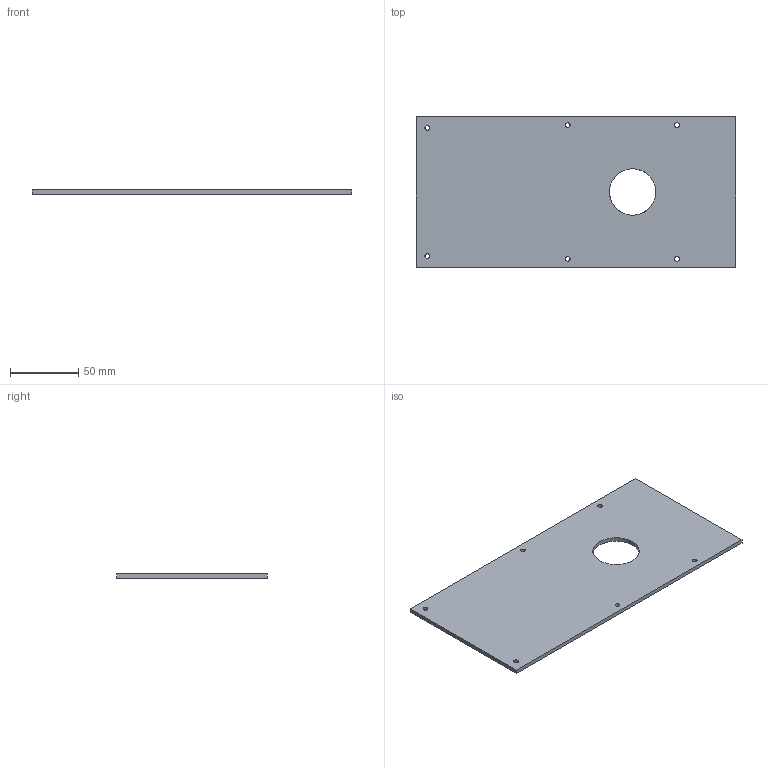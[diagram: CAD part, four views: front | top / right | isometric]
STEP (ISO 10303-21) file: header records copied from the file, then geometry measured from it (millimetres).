
FILE_DESCRIPTION(('Open CASCADE Model'),'2;1');
FILE_NAME('Open CASCADE Shape Model','2026-07-25T17:37:03',('Author'),( 'Open CASCADE'),'Open CASCADE STEP processor 7.9','build123d', 'Unknown');
FILE_SCHEMA(('AUTOMOTIVE_DESIGN { 1 0 10303 214 1 1 1 1 }'));
Length unit declared in the file: millimetre
Products named in the file (1): COMPOUND
Bounding box: 234 x 110 x 3 mm (x, y, z)
Volume: 74313.7 mm3; surface area: 52247.4 mm2
Topology: 1 solids, 1 shells, 483 faces, 1329 edges, 886 vertices
Faces by surface type: extrusion 304, plane 172, cylinder 7
Full cylindrical faces by diameter (mm): 3.4 x6, 34 x1
Entity records: 38217 total; most frequent: CARTESIAN_POINT 14792, DIRECTION 2883, ORIENTED_EDGE 2658, PCURVE 2658, DEFINITIONAL_REPRESENTATION 2658, VECTOR 2471, LINE 2167, B_SPLINE_CURVE_WITH_KNOTS 2088
